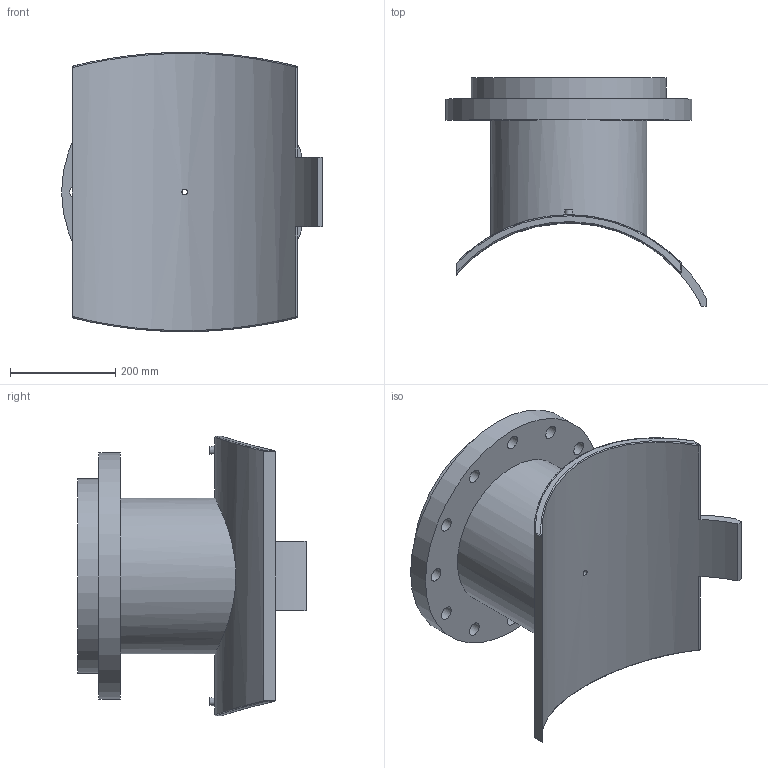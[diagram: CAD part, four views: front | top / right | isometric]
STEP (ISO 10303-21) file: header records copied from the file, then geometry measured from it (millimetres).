
FILE_DESCRIPTION(/* description */ ('PLASSON FLANGED BRANCH SADDLE 560X300'),/* implementation_level */ '2;1');
FILE_NAME(/* name */ 'C:\Dropbox\KIMPROJECTS-Inventor 2019\99-16-3568-Processing\ElectroFusion Fittings\495904_495903\stp\495903560300T.stp',/* time_stamp */ '2024-04-03T21:04:50+02:00',/* author */ ('KIM'),/* organization */ (''),/* preprocessor_version */ 'ST-DEVELOPER v17.2',/* originating_system */ 'Autodesk Inventor 2019',/* authorisation */ '');
FILE_SCHEMA (('AUTOMOTIVE_DESIGN { 1 0 10303 214 3 1 1 }'));
Length unit declared in the file: millimetre
Products named in the file (1): 495903560300T
Bounding box: 494.75 x 432.98 x 529.99 mm (x, y, z)
Volume: 13956809 mm3; surface area: 1308641.7 mm2
Topology: 1 solids, 1 shells, 62 faces, 163 edges, 126 vertices
Faces by surface type: cylinder 35, plane 17, sphere 4, bspline 4, cone 2
Full cylindrical faces by diameter (mm): 4 x2, 10 x2, 10.4 x1, 16 x1, 26 x12, 257 x1, 296 x1, 370 x1, 467 x1
Entity records: 2618 total; most frequent: CARTESIAN_POINT 990, DIRECTION 325, ORIENTED_EDGE 298, EDGE_CURVE 149, AXIS2_PLACEMENT_3D 137, VERTEX_POINT 100, EDGE_LOOP 99, CIRCLE 78
